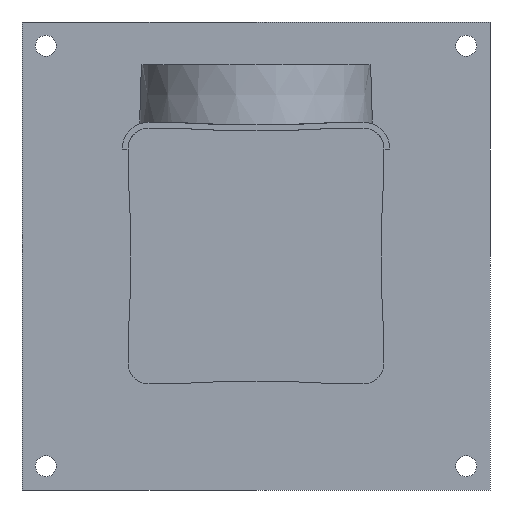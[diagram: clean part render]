
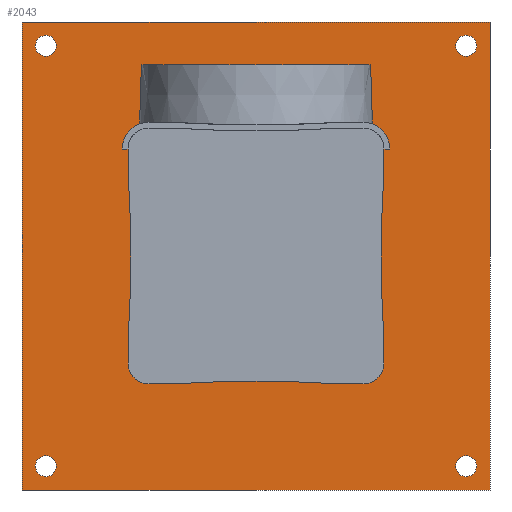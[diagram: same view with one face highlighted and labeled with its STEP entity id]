
A CAD part, front view. The second image highlights one B-rep face of the part: STEP entity #2043.
In plain terms, the highlighted planar face has unit normal (0, -1, 0) as drawn and (0, 0, -1) by its records, which use the part's own axes.
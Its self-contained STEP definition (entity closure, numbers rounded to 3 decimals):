
#1796=DIRECTION('',(0.,1.,0.));
#1797=VECTOR('',#1796,245.);
#1798=CARTESIAN_POINT('',(122.5,-122.5,0.));
#1799=LINE('',#1798,#1797);
#1800=DIRECTION('',(-1.,0.,0.));
#1801=VECTOR('',#1800,245.);
#1802=CARTESIAN_POINT('',(122.5,122.5,0.));
#1803=LINE('',#1802,#1801);
#1804=DIRECTION('',(0.,-1.,0.));
#1805=VECTOR('',#1804,245.);
#1806=CARTESIAN_POINT('',(-122.5,122.5,0.));
#1807=LINE('',#1806,#1805);
#1808=DIRECTION('',(1.,0.,0.));
#1809=VECTOR('',#1808,245.);
#1810=CARTESIAN_POINT('',(-122.5,-122.5,0.));
#1811=LINE('',#1810,#1809);
#1812=CARTESIAN_POINT('',(110.,-110.,0.));
#1813=DIRECTION('',(0.,0.,-1.));
#1814=DIRECTION('',(-1.,0.,0.));
#1815=AXIS2_PLACEMENT_3D('',#1812,#1813,#1814);
#1817=CARTESIAN_POINT('',(110.,-110.,0.));
#1818=DIRECTION('',(0.,0.,-1.));
#1819=DIRECTION('',(1.,0.,0.));
#1820=AXIS2_PLACEMENT_3D('',#1817,#1818,#1819);
#1822=CARTESIAN_POINT('',(110.,110.,0.));
#1823=DIRECTION('',(0.,0.,-1.));
#1824=DIRECTION('',(-1.,0.,0.));
#1825=AXIS2_PLACEMENT_3D('',#1822,#1823,#1824);
#1827=CARTESIAN_POINT('',(110.,110.,0.));
#1828=DIRECTION('',(0.,0.,-1.));
#1829=DIRECTION('',(1.,0.,0.));
#1830=AXIS2_PLACEMENT_3D('',#1827,#1828,#1829);
#1832=CARTESIAN_POINT('',(-110.,-110.,0.));
#1833=DIRECTION('',(0.,0.,-1.));
#1834=DIRECTION('',(-1.,0.,0.));
#1835=AXIS2_PLACEMENT_3D('',#1832,#1833,#1834);
#1837=CARTESIAN_POINT('',(-110.,-110.,0.));
#1838=DIRECTION('',(0.,0.,-1.));
#1839=DIRECTION('',(1.,0.,0.));
#1840=AXIS2_PLACEMENT_3D('',#1837,#1838,#1839);
#1842=CARTESIAN_POINT('',(-110.,110.,0.));
#1843=DIRECTION('',(0.,0.,-1.));
#1844=DIRECTION('',(-1.,0.,0.));
#1845=AXIS2_PLACEMENT_3D('',#1842,#1843,#1844);
#1847=CARTESIAN_POINT('',(-110.,110.,0.));
#1848=DIRECTION('',(0.,0.,-1.));
#1849=DIRECTION('',(1.,0.,0.));
#1850=AXIS2_PLACEMENT_3D('',#1847,#1848,#1849);
#1956=CARTESIAN_POINT('',(122.5,-122.5,0.));
#1957=CARTESIAN_POINT('',(122.5,122.5,0.));
#1958=VERTEX_POINT('',#1956);
#1959=VERTEX_POINT('',#1957);
#1960=CARTESIAN_POINT('',(-122.5,122.5,0.));
#1961=VERTEX_POINT('',#1960);
#1962=CARTESIAN_POINT('',(-122.5,-122.5,0.));
#1963=VERTEX_POINT('',#1962);
#1972=CARTESIAN_POINT('',(104.5,-110.,0.));
#1973=CARTESIAN_POINT('',(115.5,-110.,0.));
#1974=VERTEX_POINT('',#1972);
#1975=VERTEX_POINT('',#1973);
#1980=CARTESIAN_POINT('',(104.5,110.,0.));
#1981=CARTESIAN_POINT('',(115.5,110.,0.));
#1982=VERTEX_POINT('',#1980);
#1983=VERTEX_POINT('',#1981);
#1988=CARTESIAN_POINT('',(-115.5,-110.,0.));
#1989=CARTESIAN_POINT('',(-104.5,-110.,0.));
#1990=VERTEX_POINT('',#1988);
#1991=VERTEX_POINT('',#1989);
#1996=CARTESIAN_POINT('',(-115.5,110.,0.));
#1997=CARTESIAN_POINT('',(-104.5,110.,0.));
#1998=VERTEX_POINT('',#1996);
#1999=VERTEX_POINT('',#1997);
#2004=CARTESIAN_POINT('',(0.,0.,0.));
#2005=DIRECTION('',(0.,0.,1.));
#2006=DIRECTION('',(1.,0.,0.));
#2007=AXIS2_PLACEMENT_3D('',#2004,#2005,#2006);
#2008=PLANE('',#2007);
#2010=ORIENTED_EDGE('',*,*,#2009,.T.);
#2012=ORIENTED_EDGE('',*,*,#2011,.T.);
#2014=ORIENTED_EDGE('',*,*,#2013,.T.);
#2016=ORIENTED_EDGE('',*,*,#2015,.T.);
#2017=EDGE_LOOP('',(#2010,#2012,#2014,#2016));
#2018=FACE_OUTER_BOUND('',#2017,.F.);
#2020=ORIENTED_EDGE('',*,*,#2019,.T.);
#2022=ORIENTED_EDGE('',*,*,#2021,.T.);
#2023=EDGE_LOOP('',(#2020,#2022));
#2024=FACE_BOUND('',#2023,.F.);
#2026=ORIENTED_EDGE('',*,*,#2025,.T.);
#2028=ORIENTED_EDGE('',*,*,#2027,.T.);
#2029=EDGE_LOOP('',(#2026,#2028));
#2030=FACE_BOUND('',#2029,.F.);
#2032=ORIENTED_EDGE('',*,*,#2031,.T.);
#2034=ORIENTED_EDGE('',*,*,#2033,.T.);
#2035=EDGE_LOOP('',(#2032,#2034));
#2036=FACE_BOUND('',#2035,.F.);
#2038=ORIENTED_EDGE('',*,*,#2037,.T.);
#2040=ORIENTED_EDGE('',*,*,#2039,.T.);
#2041=EDGE_LOOP('',(#2038,#2040));
#2042=FACE_BOUND('',#2041,.F.);
#1816=CIRCLE('',#1815,5.5);
#1821=CIRCLE('',#1820,5.5);
#1826=CIRCLE('',#1825,5.5);
#1831=CIRCLE('',#1830,5.5);
#1836=CIRCLE('',#1835,5.5);
#1841=CIRCLE('',#1840,5.5);
#1846=CIRCLE('',#1845,5.5);
#1851=CIRCLE('',#1850,5.5);
#2009=EDGE_CURVE('',#1958,#1959,#1799,.T.);
#2011=EDGE_CURVE('',#1959,#1961,#1803,.T.);
#2013=EDGE_CURVE('',#1961,#1963,#1807,.T.);
#2015=EDGE_CURVE('',#1963,#1958,#1811,.T.);
#2019=EDGE_CURVE('',#1974,#1975,#1816,.T.);
#2021=EDGE_CURVE('',#1975,#1974,#1821,.T.);
#2025=EDGE_CURVE('',#1982,#1983,#1826,.T.);
#2027=EDGE_CURVE('',#1983,#1982,#1831,.T.);
#2031=EDGE_CURVE('',#1990,#1991,#1836,.T.);
#2033=EDGE_CURVE('',#1991,#1990,#1841,.T.);
#2037=EDGE_CURVE('',#1998,#1999,#1846,.T.);
#2039=EDGE_CURVE('',#1999,#1998,#1851,.T.);
#2043=ADVANCED_FACE('',(#2018,#2024,#2030,#2036,#2042),#2008,.F.);
